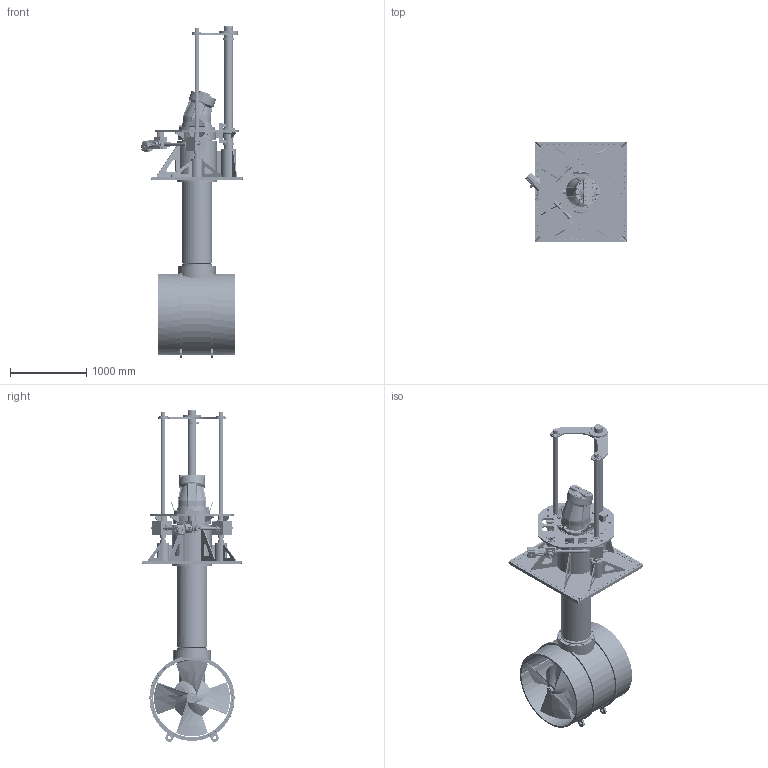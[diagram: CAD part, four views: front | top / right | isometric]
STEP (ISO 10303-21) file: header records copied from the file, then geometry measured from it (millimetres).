
FILE_DESCRIPTION(/* description */ (''),/* implementation_level */ '2;1');
FILE_NAME(/* name */ 'Q:\THRUSTERS\THRUSTER SALES & SUPPORT DOCS\THRUSTER Sales\H-V\H-1000-V\H-1000-V-DEPLOYED.stp',/* time_stamp */ '2020-03-18T12:39:12+00:00',/* author */ ('charlotte.richardson'),/* organization */ (''),/* preprocessor_version */ 'ST-DEVELOPER v17',/* originating_system */ 'Autodesk Inventor 2019',/* authorisation */ '');
FILE_SCHEMA (('AUTOMOTIVE_DESIGN { 1 0 10303 214 3 1 1 }'));
Products named in the file (1): H-1000-V_Shrinkwrap_1
Bounding box: 1328.95 x 1301.98 x 4349.13 mm (x, y, z)
Volume: 433026521.4 mm3; surface area: 31616430 mm2
Topology: 3 solids, 3 shells, 4244 faces, 10931 edges, 7129 vertices
Faces by surface type: plane 1626, cylinder 1224, bspline 802, cone 369, torus 195, sphere 28
Full cylindrical faces by diameter (mm): 7.2 x2, 10.11 x16, 10.25 x58, 10.5 x14, 11 x16, 11.8 x2, 12 x2, 12.4 x8, 12.5 x30, 13 x22, 14 x4, 14.32 x2, 15.25 x4, 15.8 x13, 16 x13, 16.5 x76, 17 x38, 17.5 x24, 18 x6, 18.376 x2, 19 x42, 20 x3, 20.5 x16, 20.752 x1, 21 x23, 22 x8, 23.75 x2, 24 x1, 24.5 x2, 25 x18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
Entity records: 209317 total; most frequent: CARTESIAN_POINT 104430, ORIENTED_EDGE 21484, DIRECTION 19807, EDGE_CURVE 10742, AXIS2_PLACEMENT_3D 7629, VERTEX_POINT 7128, EDGE_LOOP 5164, LINE 4549
